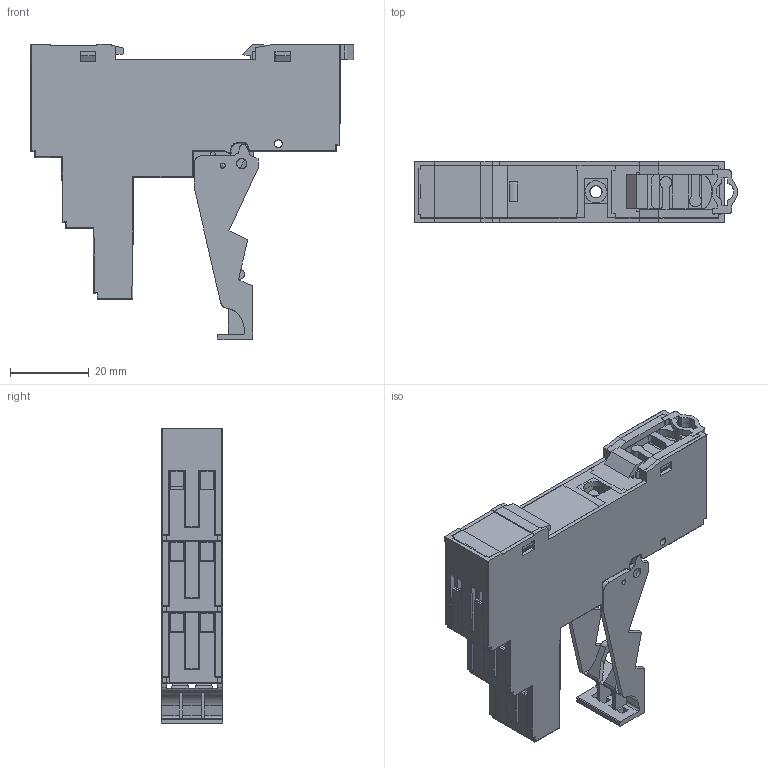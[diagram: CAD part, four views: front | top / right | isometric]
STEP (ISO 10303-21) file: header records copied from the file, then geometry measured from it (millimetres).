
FILE_DESCRIPTION(('STEP AP214'),'2;1');
FILE_NAME('95953_with_095913.stp','2011-01-12T11:18:34',(''),(''),'2007.1.106','THINKDESIGN','');
FILE_SCHEMA(('AUTOMOTIVE_DESIGN'));
Products named in the file (1): None
Bounding box: 82.14 x 15.5 x 75.11 mm (x, y, z)
Surface area: 22535.2 mm2 (no closed solid volume)
Topology: 0 solids, 0 shells, 1065 faces, 6249 edges, 6204 vertices
Faces by surface type: plane 711, cylinder 253, bspline 101
Full cylindrical faces by diameter (mm): 1.2 x4, 1.3 x2, 2 x2, 2.3 x8, 2.5 x2, 2.6 x2, 3 x10, 3.6 x3, 5.3 x8, 5.6 x1, 6 x1
Entity records: 68156 total; most frequent: CARTESIAN_POINT 23812, DIRECTION 7835, COMPOSITE_CURVE_SEGMENT 6210, TRIMMED_CURVE 5330, VECTOR 4753, LINE 4753, AXIS2_PLACEMENT_3D 1541, OUTER_BOUNDARY_CURVE 1065
